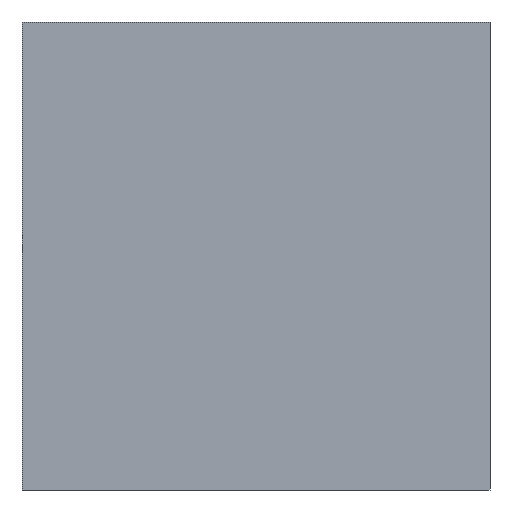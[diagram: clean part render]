
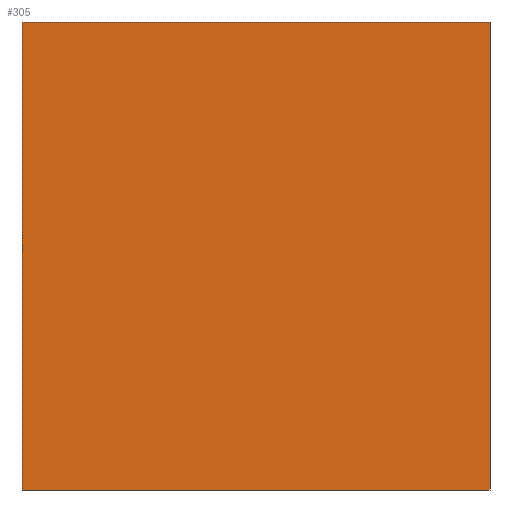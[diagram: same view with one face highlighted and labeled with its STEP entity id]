
A CAD part, left-side view. The second image highlights one B-rep face of the part: STEP entity #305.
In plain terms, the highlighted planar face has unit normal (-1, 0, 0).
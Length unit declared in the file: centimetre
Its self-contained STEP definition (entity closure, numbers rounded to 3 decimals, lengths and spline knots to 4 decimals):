
#1 = CARTESIAN_POINT ( 'NONE',  ( 0., 1000., 1000. ) ) ;
#4 = PLANE ( 'NONE',  #251 ) ;
#7 = EDGE_CURVE ( 'NONE', #97, #253, #150, .T. ) ;
#21 = VECTOR ( 'NONE', #254, 100. ) ;
#29 = EDGE_CURVE ( 'NONE', #97, #301, #210, .T. ) ;
#32 = DIRECTION ( 'NONE',  ( 1., 0., 0. ) ) ;
#43 = VECTOR ( 'NONE', #76, 100. ) ;
#73 = ORIENTED_EDGE ( 'NONE', *, *, #7, .F. ) ;
#74 = VECTOR ( 'NONE', #318, 100. ) ;
#76 = DIRECTION ( 'NONE',  ( 0., 0., -1. ) ) ;
#79 = CARTESIAN_POINT ( 'NONE',  ( 0., 1000., 1000. ) ) ;
#83 = DIRECTION ( 'NONE',  ( 0., -1., 0. ) ) ;
#84 = CARTESIAN_POINT ( 'NONE',  ( 0., 0., 0. ) ) ;
#91 = CARTESIAN_POINT ( 'NONE',  ( 0., 1000., 0. ) ) ;
#97 = VERTEX_POINT ( 'NONE', #181 ) ;
#134 = CARTESIAN_POINT ( 'NONE',  ( 0., 0., 1000. ) ) ;
#142 = DIRECTION ( 'NONE',  ( 0., 0., -1. ) ) ;
#150 = LINE ( 'NONE', #225, #21 ) ;
#159 = LINE ( 'NONE', #134, #74 ) ;
#165 = ORIENTED_EDGE ( 'NONE', *, *, #29, .T. ) ;
#181 = CARTESIAN_POINT ( 'NONE',  ( 0., 1000., 1000. ) ) ;
#184 = LINE ( 'NONE', #91, #196 ) ;
#196 = VECTOR ( 'NONE', #83, 100. ) ;
#200 = EDGE_CURVE ( 'NONE', #253, #326, #159, .T. ) ;
#210 = LINE ( 'NONE', #79, #43 ) ;
#211 = EDGE_CURVE ( 'NONE', #301, #326, #184, .T. ) ;
#225 = CARTESIAN_POINT ( 'NONE',  ( 0., 1000., 1000. ) ) ;
#237 = CARTESIAN_POINT ( 'NONE',  ( 0., 1000., 0. ) ) ;
#251 = AXIS2_PLACEMENT_3D ( 'NONE', #1, #32, #142 ) ;
#253 = VERTEX_POINT ( 'NONE', #289 ) ;
#254 = DIRECTION ( 'NONE',  ( 0., -1., 0. ) ) ;
#272 = ORIENTED_EDGE ( 'NONE', *, *, #211, .T. ) ;
#287 = FACE_OUTER_BOUND ( 'NONE', #322, .T. ) ;
#289 = CARTESIAN_POINT ( 'NONE',  ( 0., 0., 1000. ) ) ;
#301 = VERTEX_POINT ( 'NONE', #237 ) ;
#305 = ADVANCED_FACE ( 'NONE', ( #287 ), #4, .F. ) ;
#318 = DIRECTION ( 'NONE',  ( 0., 0., -1. ) ) ;
#322 = EDGE_LOOP ( 'NONE', ( #272, #328, #73, #165 ) ) ;
#326 = VERTEX_POINT ( 'NONE', #84 ) ;
#328 = ORIENTED_EDGE ( 'NONE', *, *, #200, .F. ) ;
